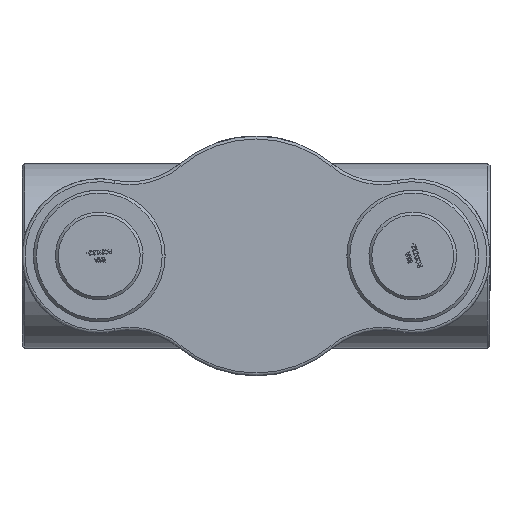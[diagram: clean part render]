
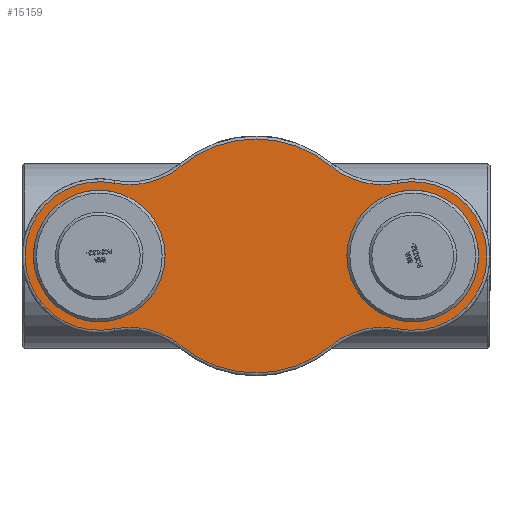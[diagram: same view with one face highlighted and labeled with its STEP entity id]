
A CAD part, front view. The second image highlights one B-rep face of the part: STEP entity #15159.
In plain terms, the highlighted planar face has unit normal (0, -1, 0) as drawn and (0, 0, -1) by its records, which use the part's own axes.
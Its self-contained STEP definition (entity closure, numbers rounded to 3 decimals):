
#3994=PLANE('',#16125);
#4418=FACE_BOUND('',#5393,.T.);
#4419=FACE_BOUND('',#5394,.T.);
#4515=FACE_OUTER_BOUND('',#5392,.T.);
#5392=EDGE_LOOP('',(#10458,#10459,#10460,#10461,#10462,#10463,#10464,#10465));
#5393=EDGE_LOOP('',(#10466));
#5394=EDGE_LOOP('',(#10467));
#6364=CIRCLE('',#16124,83.);
#6365=CIRCLE('',#16126,127.);
#6366=CIRCLE('',#16127,137.);
#6367=CIRCLE('',#16128,200.);
#6368=CIRCLE('',#16129,137.);
#6369=CIRCLE('',#16130,127.);
#6370=CIRCLE('',#16131,137.);
#6371=CIRCLE('',#16132,200.);
#6372=CIRCLE('',#16133,137.);
#6373=CIRCLE('',#16134,83.);
#6556=VERTEX_POINT('',#19713);
#6557=VERTEX_POINT('',#19716);
#6558=VERTEX_POINT('',#19717);
#6559=VERTEX_POINT('',#19719);
#6560=VERTEX_POINT('',#19721);
#6561=VERTEX_POINT('',#19723);
#6562=VERTEX_POINT('',#19725);
#6563=VERTEX_POINT('',#19727);
#6564=VERTEX_POINT('',#19729);
#6565=VERTEX_POINT('',#19732);
#8116=EDGE_CURVE('',#6556,#6556,#6364,.T.);
#8117=EDGE_CURVE('',#6557,#6558,#6365,.T.);
#8118=EDGE_CURVE('',#6559,#6557,#6366,.T.);
#8119=EDGE_CURVE('',#6560,#6559,#6367,.T.);
#8120=EDGE_CURVE('',#6561,#6560,#6368,.T.);
#8121=EDGE_CURVE('',#6562,#6561,#6369,.T.);
#8122=EDGE_CURVE('',#6563,#6562,#6370,.T.);
#8123=EDGE_CURVE('',#6564,#6563,#6371,.T.);
#8124=EDGE_CURVE('',#6558,#6564,#6372,.T.);
#8125=EDGE_CURVE('',#6565,#6565,#6373,.T.);
#10458=ORIENTED_EDGE('',*,*,#8117,.F.);
#10459=ORIENTED_EDGE('',*,*,#8118,.F.);
#10460=ORIENTED_EDGE('',*,*,#8119,.F.);
#10461=ORIENTED_EDGE('',*,*,#8120,.F.);
#10462=ORIENTED_EDGE('',*,*,#8121,.F.);
#10463=ORIENTED_EDGE('',*,*,#8122,.F.);
#10464=ORIENTED_EDGE('',*,*,#8123,.F.);
#10465=ORIENTED_EDGE('',*,*,#8124,.F.);
#10466=ORIENTED_EDGE('',*,*,#8125,.F.);
#10467=ORIENTED_EDGE('',*,*,#8116,.F.);
#15159=ADVANCED_FACE('',(#4515,#4418,#4419),#3994,.F.);
#16124=AXIS2_PLACEMENT_3D('',#19714,#16873,#16874);
#16125=AXIS2_PLACEMENT_3D('',#19715,#16875,#16876);
#16126=AXIS2_PLACEMENT_3D('',#19718,#16877,#16878);
#16127=AXIS2_PLACEMENT_3D('',#19720,#16879,#16880);
#16128=AXIS2_PLACEMENT_3D('',#19722,#16881,#16882);
#16129=AXIS2_PLACEMENT_3D('',#19724,#16883,#16884);
#16130=AXIS2_PLACEMENT_3D('',#19726,#16885,#16886);
#16131=AXIS2_PLACEMENT_3D('',#19728,#16887,#16888);
#16132=AXIS2_PLACEMENT_3D('',#19730,#16889,#16890);
#16133=AXIS2_PLACEMENT_3D('',#19731,#16891,#16892);
#16134=AXIS2_PLACEMENT_3D('',#19733,#16893,#16894);
#16873=DIRECTION('center_axis',(0.,0.,-1.));
#16874=DIRECTION('ref_axis',(1.,0.,0.));
#16875=DIRECTION('center_axis',(0.,0.,1.));
#16876=DIRECTION('ref_axis',(1.,0.,0.));
#16877=DIRECTION('center_axis',(0.,0.,1.));
#16878=DIRECTION('ref_axis',(-1.,0.,0.));
#16879=DIRECTION('center_axis',(0.,0.,-1.));
#16880=DIRECTION('ref_axis',(0.246,-0.969,0.));
#16881=DIRECTION('center_axis',(0.,0.,1.));
#16882=DIRECTION('ref_axis',(0.,1.,0.));
#16883=DIRECTION('center_axis',(0.,0.,-1.));
#16884=DIRECTION('ref_axis',(-0.246,-0.969,0.));
#16885=DIRECTION('center_axis',(0.,0.,1.));
#16886=DIRECTION('ref_axis',(1.,0.,0.));
#16887=DIRECTION('center_axis',(0.,0.,-1.));
#16888=DIRECTION('ref_axis',(-0.246,0.969,0.));
#16889=DIRECTION('center_axis',(0.,0.,1.));
#16890=DIRECTION('ref_axis',(0.,-1.,0.));
#16891=DIRECTION('center_axis',(0.,0.,-1.));
#16892=DIRECTION('ref_axis',(0.246,0.969,0.));
#16893=DIRECTION('center_axis',(0.,0.,-1.));
#16894=DIRECTION('ref_axis',(1.,0.,0.));
#19713=CARTESIAN_POINT('',(185.,0.,0.));
#19714=CARTESIAN_POINT('Origin',(268.,0.,0.));
#19715=CARTESIAN_POINT('Origin',(0.,0.,
0.));
#19716=CARTESIAN_POINT('',(-242.914,124.498,0.));
#19717=CARTESIAN_POINT('',(-242.914,-124.498,0.));
#19718=CARTESIAN_POINT('Origin',(-268.,0.,0.));
#19719=CARTESIAN_POINT('',(-128.102,153.59,0.));
#19720=CARTESIAN_POINT('Origin',(-215.853,258.798,0.));
#19721=CARTESIAN_POINT('',(128.102,153.59,0.));
#19722=CARTESIAN_POINT('Origin',(0.,0.,0.));
#19723=CARTESIAN_POINT('',(242.914,124.498,0.));
#19724=CARTESIAN_POINT('Origin',(215.853,258.798,0.));
#19725=CARTESIAN_POINT('',(242.914,-124.498,0.));
#19726=CARTESIAN_POINT('Origin',(268.,0.,0.));
#19727=CARTESIAN_POINT('',(128.102,-153.59,0.));
#19728=CARTESIAN_POINT('Origin',(215.853,-258.798,0.));
#19729=CARTESIAN_POINT('',(-128.102,-153.59,0.));
#19730=CARTESIAN_POINT('Origin',(0.,0.,0.));
#19731=CARTESIAN_POINT('Origin',(-215.853,-258.798,0.));
#19732=CARTESIAN_POINT('',(-351.,0.,0.));
#19733=CARTESIAN_POINT('Origin',(-268.,0.,0.));
